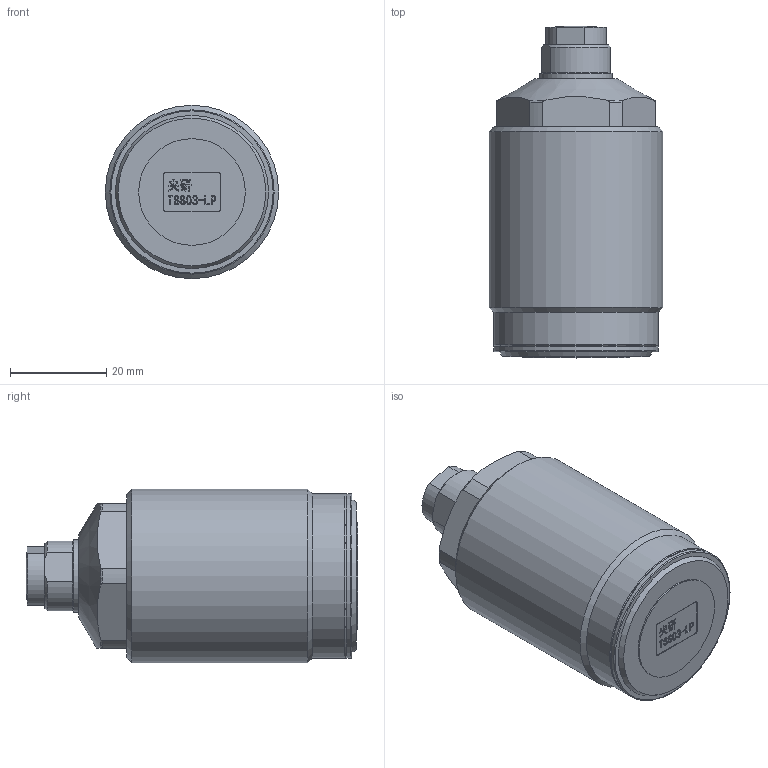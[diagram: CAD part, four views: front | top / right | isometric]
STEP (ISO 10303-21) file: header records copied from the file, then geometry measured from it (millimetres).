
FILE_DESCRIPTION(/* description */ (''),/* implementation_level */ '2;1');
FILE_NAME(/* name */ 'TSS03-LP.stp',/* time_stamp */ '2022-05-04T14:53:57+08:00',/* author */ (''),/* organization */ (''),/* preprocessor_version */ 'ST-DEVELOPER v16.7',/* originating_system */ 'SIEMENS PLM Software NX 12.0',/* authorisation */ '');
FILE_SCHEMA (('AUTOMOTIVE_DESIGN { 1 0 10303 214 3 1 1 1 }'));
Length unit declared in the file: millimetre
Products named in the file (1): TSS03-LP
Bounding box: 36 x 68.92 x 36 mm (x, y, z)
Volume: 55244 mm3; surface area: 11774.1 mm2
Topology: 3 solids, 3 shells, 247 faces, 628 edges, 412 vertices
Faces by surface type: plane 130, extrusion 68, cylinder 25, torus 13, cone 10, sphere 1
Full cylindrical faces by diameter (mm): 5 x1, 7.8 x1, 10 x2, 10.3 x1, 15 x2, 22.16 x1, 34.1 x2, 36 x1
Entity records: 9870 total; most frequent: CARTESIAN_POINT 2990, ORIENTED_EDGE 1196, DIRECTION 942, EDGE_CURVE 598, VECTOR 434, VERTEX_POINT 410, LINE 366, EDGE_LOOP 300
